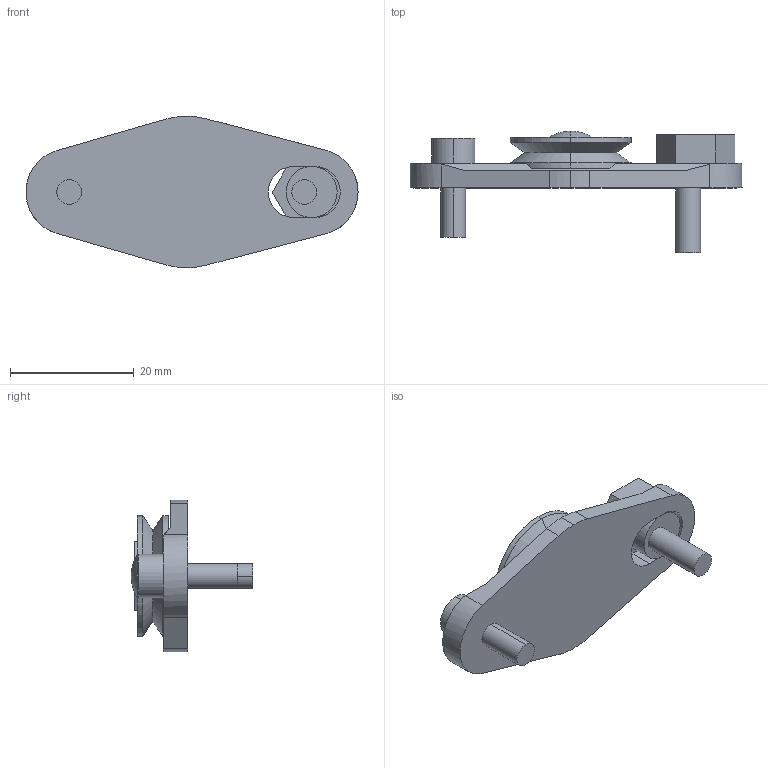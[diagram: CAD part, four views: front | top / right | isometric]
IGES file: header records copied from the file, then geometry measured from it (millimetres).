
Start section: 3D InterOp IGES (v. 2019 1.0.2), Spatial Corp. Copyright (c) 1999-2017.
Global section: file name: GBHJ 195 ENS.igs; native system: Spatial Corp.; preprocessor: 3D InterOp GENERIC/IGES 3.0; author: Noname; organization: Noname; date: 20220628.170606; units: millimetre
Bounding box: 53.69 x 19.7 x 24.5 mm (x, y, z)
Surface area: 3611.7 mm2 (no closed solid volume)
Topology: 0 solids, 0 shells, 67 faces, 320 edges, 320 vertices
Faces by surface type: extrusion 39, revolution 28
